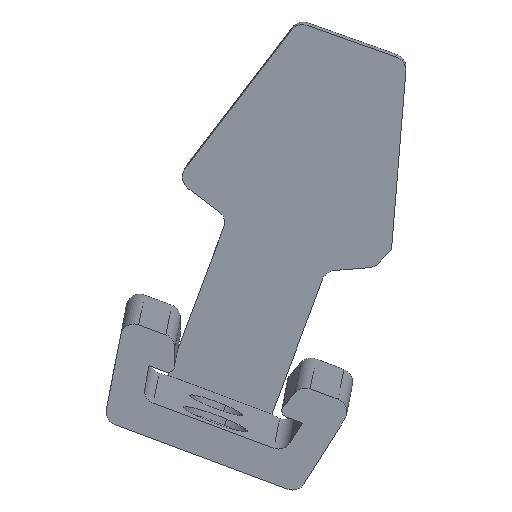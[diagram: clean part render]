
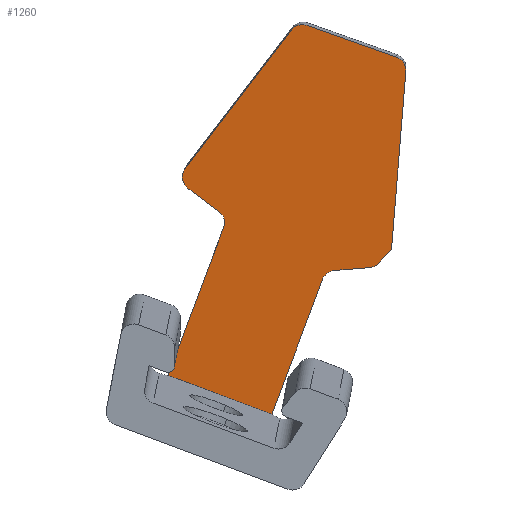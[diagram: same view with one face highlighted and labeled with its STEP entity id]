
A CAD part, left-side view. The second image highlights one B-rep face of the part: STEP entity #1260.
In plain terms, the highlighted planar face has unit normal (-0.992, 0.023, -0.123).
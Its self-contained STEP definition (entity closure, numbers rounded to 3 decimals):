
#1139=AXIS2_PLACEMENT_3D('Plane Axis2P3D',#1136,#1137,#1138) ;
#886=CARTESIAN_POINT('Control Point',(1136.99,-928.702,234.991)) ;
#887=CARTESIAN_POINT('Control Point',(1136.981,-928.961,235.012)) ;
#888=CARTESIAN_POINT('Control Point',(1136.96,-929.211,235.134)) ;
#889=CARTESIAN_POINT('Control Point',(1136.932,-929.386,235.324)) ;
#890=CARTESIAN_POINT('Vertex',(1136.99,-928.702,234.991)) ;
#892=CARTESIAN_POINT('Vertex',(1136.932,-929.386,235.324)) ;
#917=CARTESIAN_POINT('Line Origine',(1137.143,-924.136,234.622)) ;
#921=CARTESIAN_POINT('Vertex',(1137.079,-926.053,234.777)) ;
#942=CARTESIAN_POINT('Control Point',(1137.173,-925.24,234.167)) ;
#943=CARTESIAN_POINT('Control Point',(1137.14,-925.334,234.417)) ;
#944=CARTESIAN_POINT('Control Point',(1137.109,-925.524,234.633)) ;
#945=CARTESIAN_POINT('Control Point',(1137.088,-925.785,234.755)) ;
#946=CARTESIAN_POINT('Control Point',(1137.079,-926.053,234.777)) ;
#947=CARTESIAN_POINT('Vertex',(1137.173,-925.24,234.167)) ;
#973=CARTESIAN_POINT('Control Point',(1138.506,-921.457,224.124)) ;
#974=CARTESIAN_POINT('Control Point',(1137.173,-925.24,234.167)) ;
#975=CARTESIAN_POINT('Vertex',(1138.506,-921.457,224.124)) ;
#1136=CARTESIAN_POINT('Axis2P3D Location',(1169.425,-27.598,144.757)) ;
#1141=CARTESIAN_POINT('Line Origine',(1135.955,-930.859,242.938)) ;
#1145=CARTESIAN_POINT('Vertex',(1136.784,-930.325,236.344)) ;
#1147=CARTESIAN_POINT('Vertex',(1135.126,-931.393,249.531)) ;
#1151=CARTESIAN_POINT('Control Point',(1135.011,-930.7,250.595)) ;
#1152=CARTESIAN_POINT('Control Point',(1135.014,-930.855,250.54)) ;
#1153=CARTESIAN_POINT('Control Point',(1135.021,-931.,250.455)) ;
#1154=CARTESIAN_POINT('Control Point',(1135.032,-931.125,250.342)) ;
#1155=CARTESIAN_POINT('Control Point',(1135.056,-931.292,250.119)) ;
#1156=CARTESIAN_POINT('Control Point',(1135.086,-931.377,249.857)) ;
#1157=CARTESIAN_POINT('Control Point',(1135.099,-931.397,249.749)) ;
#1158=CARTESIAN_POINT('Control Point',(1135.113,-931.402,249.64)) ;
#1159=CARTESIAN_POINT('Control Point',(1135.126,-931.393,249.531)) ;
#1160=CARTESIAN_POINT('Vertex',(1135.011,-930.7,250.595)) ;
#1163=CARTESIAN_POINT('Line Origine',(1134.944,-927.385,251.769)) ;
#1167=CARTESIAN_POINT('Vertex',(1134.877,-924.071,252.942)) ;
#1171=CARTESIAN_POINT('Control Point',(1134.948,-922.889,252.594)) ;
#1172=CARTESIAN_POINT('Control Point',(1134.93,-922.984,252.719)) ;
#1173=CARTESIAN_POINT('Control Point',(1134.914,-923.104,252.826)) ;
#1174=CARTESIAN_POINT('Control Point',(1134.901,-923.243,252.909)) ;
#1175=CARTESIAN_POINT('Control Point',(1134.883,-923.496,253.)) ;
#1176=CARTESIAN_POINT('Control Point',(1134.876,-923.762,253.01)) ;
#1177=CARTESIAN_POINT('Control Point',(1134.875,-923.868,253.)) ;
#1178=CARTESIAN_POINT('Control Point',(1134.875,-923.972,252.978)) ;
#1179=CARTESIAN_POINT('Control Point',(1134.877,-924.071,252.942)) ;
#1180=CARTESIAN_POINT('Vertex',(1134.948,-922.889,252.594)) ;
#1183=CARTESIAN_POINT('Line Origine',(1135.677,-918.962,247.455)) ;
#1187=CARTESIAN_POINT('Vertex',(1136.405,-915.035,242.317)) ;
#1191=CARTESIAN_POINT('Control Point',(1136.581,-915.238,240.862)) ;
#1192=CARTESIAN_POINT('Control Point',(1136.572,-915.107,240.961)) ;
#1193=CARTESIAN_POINT('Control Point',(1136.559,-914.995,241.086)) ;
#1194=CARTESIAN_POINT('Control Point',(1136.543,-914.91,241.231)) ;
#1195=CARTESIAN_POINT('Control Point',(1136.506,-914.801,241.545)) ;
#1196=CARTESIAN_POINT('Control Point',(1136.465,-914.82,241.877)) ;
#1197=CARTESIAN_POINT('Control Point',(1136.444,-914.863,242.039)) ;
#1198=CARTESIAN_POINT('Control Point',(1136.424,-914.936,242.187)) ;
#1199=CARTESIAN_POINT('Control Point',(1136.405,-915.035,242.317)) ;
#1200=CARTESIAN_POINT('Vertex',(1136.581,-915.238,240.862)) ;
#1203=CARTESIAN_POINT('Line Origine',(1136.663,-916.41,239.978)) ;
#1207=CARTESIAN_POINT('Vertex',(1136.744,-917.582,239.094)) ;
#1211=CARTESIAN_POINT('Control Point',(1136.871,-917.9,238.007)) ;
#1212=CARTESIAN_POINT('Control Point',(1136.859,-917.934,238.098)) ;
#1213=CARTESIAN_POINT('Control Point',(1136.847,-917.956,238.193)) ;
#1214=CARTESIAN_POINT('Control Point',(1136.835,-917.966,238.291)) ;
#1215=CARTESIAN_POINT('Control Point',(1136.81,-917.961,238.487)) ;
#1216=CARTESIAN_POINT('Control Point',(1136.788,-917.905,238.676)) ;
#1217=CARTESIAN_POINT('Control Point',(1136.778,-917.866,238.766)) ;
#1218=CARTESIAN_POINT('Control Point',(1136.764,-917.79,238.892)) ;
#1219=CARTESIAN_POINT('Control Point',(1136.753,-917.692,239.)) ;
#1220=CARTESIAN_POINT('Control Point',(1136.75,-917.657,239.034)) ;
#1221=CARTESIAN_POINT('Control Point',(1136.747,-917.62,239.065)) ;
#1222=CARTESIAN_POINT('Control Point',(1136.744,-917.582,239.094)) ;
#1223=CARTESIAN_POINT('Vertex',(1136.871,-917.9,238.007)) ;
#1226=CARTESIAN_POINT('Line Origine',(1137.601,-915.827,232.504)) ;
#1230=CARTESIAN_POINT('Vertex',(1138.331,-913.755,227.001)) ;
#1233=CARTESIAN_POINT('Line Origine',(1138.419,-917.606,225.562)) ;
#1238=CARTESIAN_POINT('Line Origine',(1136.858,-929.856,235.834)) ;
#918=DIRECTION('Vector Direction',(-0.033,-0.996,0.081)) ;
#1137=DIRECTION('Axis2P3D Direction',(0.992,-0.023,0.123)) ;
#1138=DIRECTION('Axis2P3D XDirection',(0.024,1.,0.)) ;
#1142=DIRECTION('Vector Direction',(0.124,0.08,-0.989)) ;
#1164=DIRECTION('Vector Direction',(0.019,-0.942,-0.334)) ;
#1184=DIRECTION('Vector Direction',(-0.112,-0.603,0.79)) ;
#1204=DIRECTION('Vector Direction',(-0.056,0.797,0.601)) ;
#1227=DIRECTION('Vector Direction',(-0.123,-0.35,0.929)) ;
#1234=DIRECTION('Vector Direction',(-0.021,0.937,0.35)) ;
#1239=DIRECTION('Vector Direction',(-0.106,-0.674,0.731)) ;
#919=VECTOR('Line Direction',#918,1.) ;
#1143=VECTOR('Line Direction',#1142,1.) ;
#1165=VECTOR('Line Direction',#1164,1.) ;
#1185=VECTOR('Line Direction',#1184,1.) ;
#1205=VECTOR('Line Direction',#1204,1.) ;
#1228=VECTOR('Line Direction',#1227,1.) ;
#1235=VECTOR('Line Direction',#1234,1.) ;
#1240=VECTOR('Line Direction',#1239,1.) ;
#1244=ORIENTED_EDGE('',*,*,#1149,.T.) ;
#1245=ORIENTED_EDGE('',*,*,#1162,.T.) ;
#1246=ORIENTED_EDGE('',*,*,#1169,.T.) ;
#1247=ORIENTED_EDGE('',*,*,#1182,.T.) ;
#1248=ORIENTED_EDGE('',*,*,#1189,.T.) ;
#1249=ORIENTED_EDGE('',*,*,#1202,.T.) ;
#1250=ORIENTED_EDGE('',*,*,#1209,.T.) ;
#1251=ORIENTED_EDGE('',*,*,#1225,.T.) ;
#1252=ORIENTED_EDGE('',*,*,#1232,.T.) ;
#1253=ORIENTED_EDGE('',*,*,#1237,.F.) ;
#1254=ORIENTED_EDGE('',*,*,#977,.T.) ;
#1255=ORIENTED_EDGE('',*,*,#949,.T.) ;
#1256=ORIENTED_EDGE('',*,*,#923,.T.) ;
#1257=ORIENTED_EDGE('',*,*,#894,.T.) ;
#1258=ORIENTED_EDGE('',*,*,#1242,.F.) ;
#1260=ADVANCED_FACE('\X2\96F64EF651E04F554F53\X0\',(#1259),#1140,.F.) ;
#885=B_SPLINE_CURVE_WITH_KNOTS('',3,(#886,#887,#888,#889),.UNSPECIFIED.,.F.,.U.,(4,4),(0.,1.687),.UNSPECIFIED.) ;
#941=B_SPLINE_CURVE_WITH_KNOTS('',4,(#942,#943,#944,#945,#946),.UNSPECIFIED.,.F.,.U.,(5,5),(0.,1.561),.UNSPECIFIED.) ;
#972=B_SPLINE_CURVE_WITH_KNOTS('',1,(#973,#974),.UNSPECIFIED.,.F.,.U.,(2,2),(-5.407,5.407),.UNSPECIFIED.) ;
#1150=B_SPLINE_CURVE_WITH_KNOTS('',5,(#1151,#1152,#1153,#1154,#1155,#1156,#1157,#1158,#1159),.UNSPECIFIED.,.F.,.U.,(6,3,6),(0.,1.778,2.959),.UNSPECIFIED.) ;
#1170=B_SPLINE_CURVE_WITH_KNOTS('',5,(#1171,#1172,#1173,#1174,#1175,#1176,#1177,#1178,#1179),.UNSPECIFIED.,.F.,.U.,(6,3,6),(0.,1.713,2.851),.UNSPECIFIED.) ;
#1190=B_SPLINE_CURVE_WITH_KNOTS('',5,(#1191,#1192,#1193,#1194,#1195,#1196,#1197,#1198,#1199),.UNSPECIFIED.,.F.,.U.,(6,3,6),(0.,1.776,3.546),.UNSPECIFIED.) ;
#1210=B_SPLINE_CURVE_WITH_KNOTS('',5,(#1211,#1212,#1213,#1214,#1215,#1216,#1217,#1218,#1219,#1220,#1221,#1222),.UNSPECIFIED.,.F.,.U.,(6,3,3,6),(0.,0.71,1.42,1.769),.UNSPECIFIED.) ;
#894=EDGE_CURVE('',#891,#893,#885,.T.) ;
#923=EDGE_CURVE('',#922,#891,#920,.T.) ;
#949=EDGE_CURVE('',#948,#922,#941,.T.) ;
#977=EDGE_CURVE('',#976,#948,#972,.T.) ;
#1149=EDGE_CURVE('',#1146,#1148,#1144,.F.) ;
#1162=EDGE_CURVE('',#1148,#1161,#1150,.F.) ;
#1169=EDGE_CURVE('',#1161,#1168,#1166,.F.) ;
#1182=EDGE_CURVE('',#1168,#1181,#1170,.F.) ;
#1189=EDGE_CURVE('',#1181,#1188,#1186,.F.) ;
#1202=EDGE_CURVE('',#1188,#1201,#1190,.F.) ;
#1209=EDGE_CURVE('',#1201,#1208,#1206,.F.) ;
#1225=EDGE_CURVE('',#1208,#1224,#1210,.F.) ;
#1232=EDGE_CURVE('',#1224,#1231,#1229,.F.) ;
#1237=EDGE_CURVE('',#976,#1231,#1236,.T.) ;
#1242=EDGE_CURVE('',#1146,#893,#1241,.F.) ;
#1243=EDGE_LOOP('',(#1244,#1245,#1246,#1247,#1248,#1249,#1250,#1251,#1252,#1253,#1254,#1255,#1256,#1257,#1258)) ;
#1259=FACE_OUTER_BOUND('',#1243,.T.) ;
#920=LINE('Line',#917,#919) ;
#1144=LINE('Line',#1141,#1143) ;
#1166=LINE('Line',#1163,#1165) ;
#1186=LINE('Line',#1183,#1185) ;
#1206=LINE('Line',#1203,#1205) ;
#1229=LINE('Line',#1226,#1228) ;
#1236=LINE('Line',#1233,#1235) ;
#1241=LINE('Line',#1238,#1240) ;
#1140=PLANE('Plane',#1139) ;
#891=VERTEX_POINT('',#890) ;
#893=VERTEX_POINT('',#892) ;
#922=VERTEX_POINT('',#921) ;
#948=VERTEX_POINT('',#947) ;
#976=VERTEX_POINT('',#975) ;
#1146=VERTEX_POINT('',#1145) ;
#1148=VERTEX_POINT('',#1147) ;
#1161=VERTEX_POINT('',#1160) ;
#1168=VERTEX_POINT('',#1167) ;
#1181=VERTEX_POINT('',#1180) ;
#1188=VERTEX_POINT('',#1187) ;
#1201=VERTEX_POINT('',#1200) ;
#1208=VERTEX_POINT('',#1207) ;
#1224=VERTEX_POINT('',#1223) ;
#1231=VERTEX_POINT('',#1230) ;
